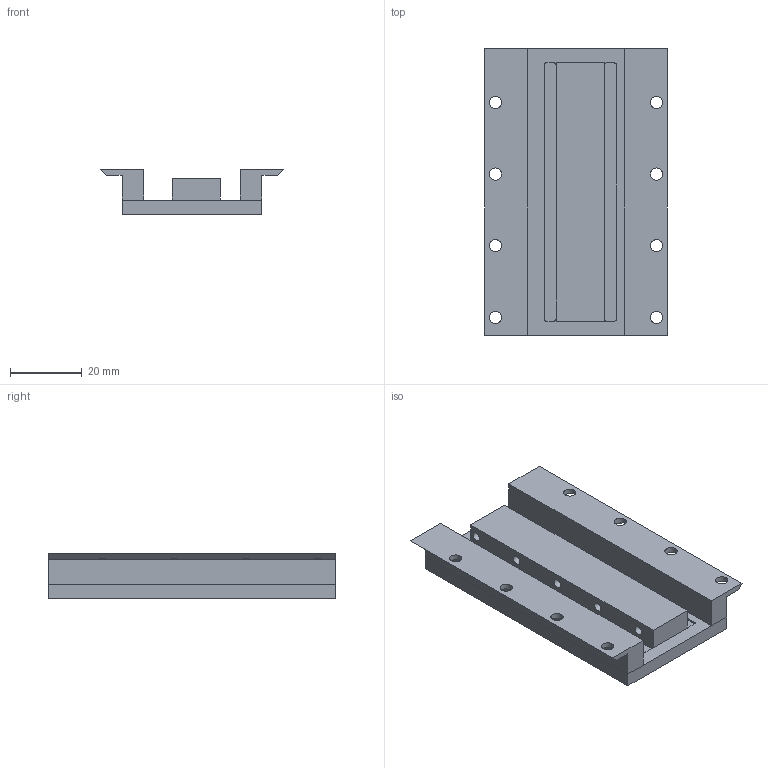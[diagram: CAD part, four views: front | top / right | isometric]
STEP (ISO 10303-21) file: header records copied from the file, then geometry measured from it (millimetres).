
FILE_DESCRIPTION(/* description */ (''),/* implementation_level */ '2;1');
FILE_NAME(/* name */ 'Split_Mount_Plate_Only.step',/* time_stamp */ '2026-09-24T09:35:25-07:00',/* author */ ('박정현'),/* organization */ (''),/* preprocessor_version */ 'ST-DEVELOPER v20.2',/* originating_system */ 'Autodesk Inventor 2027',/* authorisation */ '');
FILE_SCHEMA (('AUTOMOTIVE_DESIGN { 1 0 10303 214 3 1 1 }'));
Products named in the file (5): Split_Mount_Plate_Only; Centre_Plate; Left_Rod_Support; Right_Rod_Support; DIN 7991 - M3x10
Assembly tree (11 placements, depth 2):
  Split_Mount_Plate_Only
    Centre_Plate
    Left_Rod_Support
    Right_Rod_Support
    DIN 7991 - M3x10  x8
Bounding box: 51 x 80 x 12.5 mm (x, y, z)
Volume: 27140.2 mm3; surface area: 17257.9 mm2
Topology: 11 solids, 11 shells, 215 faces, 506 edges, 332 vertices
Faces by surface type: plane 125, cylinder 58, cone 24, torus 8
Full cylindrical faces by diameter (mm): 2.5 x18, 3 x8, 3.4 x16, 6 x8
Entity records: 3774 total; most frequent: DIRECTION 666, CARTESIAN_POINT 600, ORIENTED_EDGE 564, EDGE_CURVE 282, AXIS2_PLACEMENT_3D 251, VERTEX_POINT 185, LINE 164, VECTOR 164
